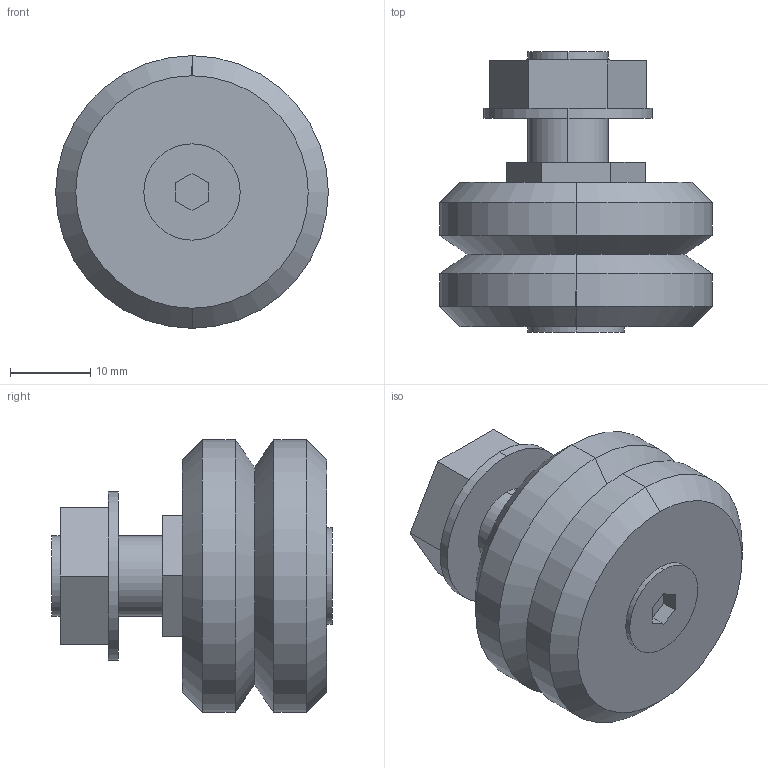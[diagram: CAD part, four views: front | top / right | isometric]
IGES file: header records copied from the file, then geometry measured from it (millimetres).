
Start section: 3D InterOp IGES (v. 2019 1.0.2), Spatial Corp. Copyright (c) 1999-2017.
Global section: file name: SS SJ34 E.igs; native system: Spatial Corp.; preprocessor: 3D InterOp GENERIC/IGES 3.0; author: Noname; organization: Noname; date: 20220628.114803; units: millimetre
Bounding box: 34 x 35 x 34 mm (x, y, z)
Surface area: 5103.7 mm2 (no closed solid volume)
Topology: 0 solids, 0 shells, 54 faces, 244 edges, 244 vertices
Faces by surface type: extrusion 34, revolution 20
